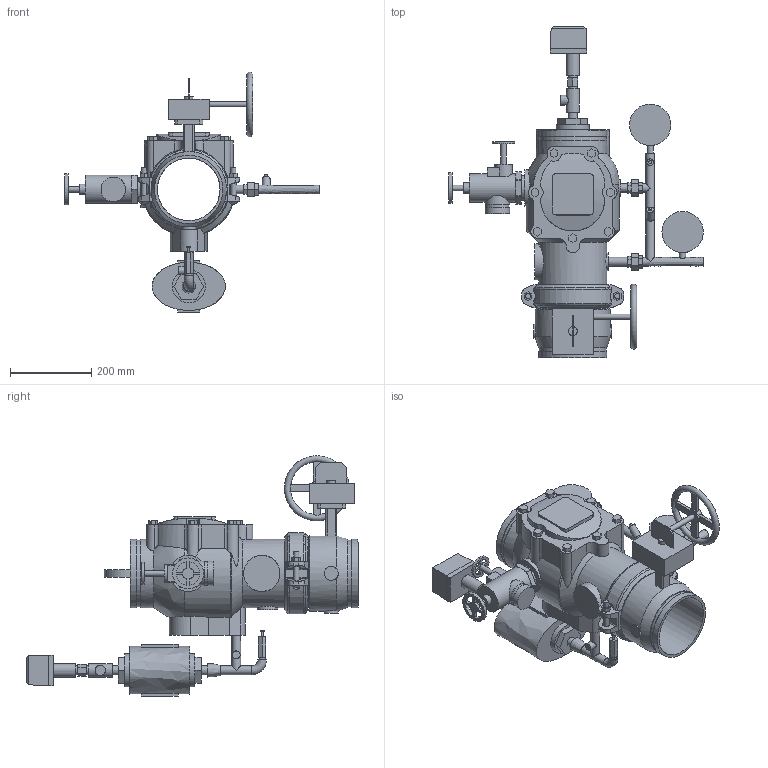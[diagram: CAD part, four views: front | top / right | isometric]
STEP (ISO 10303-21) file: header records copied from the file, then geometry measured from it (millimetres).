
FILE_DESCRIPTION(/* description */ ('VIC FP VALVE ALARM CHECK SERIES 751 (OGS)','CAx-IF Rec.Pracs.---Representation and Presentation of Product Manufacturing Information (PMI)---4.0---2014-10-13'),/* implementation_level */ '2;1');
FILE_NAME(/* name */ 'C:\Users\Vjadhav\AppData\Roaming\Autodesk\ApplicationPlugins\Victaulic.Temp\A404\Victaulic_FP_Valve Alarm Check_Series 751 (OGS)-European Trim_6 (150).stp',/* time_stamp */ '2021-04-19T16:29:59+06:00',/* author */ ('VJadhav'),/* organization */ ('Victaulic'),/* preprocessor_version */ 'ST-DEVELOPER v17.2',/* originating_system */ 'Autodesk Inventor 2019',/* authorisation */ '');
FILE_SCHEMA (('AP242_MANAGED_MODEL_BASED_3D_ENGINEERING_MIM_LF { 1 0 10303 442 1 1 4 }'));
Length unit declared in the file: inch
Products named in the file (4): 751-06.0; 009N-06.0; 705-06.0; 751-06.0_1
Assembly tree (3 placements, depth 2):
  751-06.0
    009N-06.0
    705-06.0
    751-06.0_1
Bounding box: 625.6 x 816.1 x 590.72 mm (x, y, z)
Volume: 11232084.6 mm3; surface area: 1322647.8 mm2
Topology: 6 solids, 7 shells, 568 faces, 1478 edges, 998 vertices
Faces by surface type: plane 362, cylinder 181, cone 9, torus 8, bspline 6, sphere 2
Full cylindrical faces by diameter (mm): 5 x1, 7.62 x2, 8.636 x4, 10 x1, 12.7 x6, 14 x2, 15.24 x3, 16.256 x1, 18.7 x1, 18.796 x1, 21.336 x11, 22.225 x2, 22.86 x2, 25 x1, 26 x1, 33.02 x2, 34.392 x3, 35.56 x1, 43.434 x2, 44 x1, 50.8 x1, 55 x1, 55.118 x1, 57.15 x1, 60.325 x4, 69.85 x1, 76 x1, 81.28 x2, 89.154 x2, 101.6 x2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
Entity records: 20773 total; most frequent: CARTESIAN_POINT 5766, ORIENTED_EDGE 2956, DIRECTION 2903, EDGE_CURVE 1478, AXIS2_PLACEMENT_3D 1017, VERTEX_POINT 998, LINE 869, VECTOR 869
